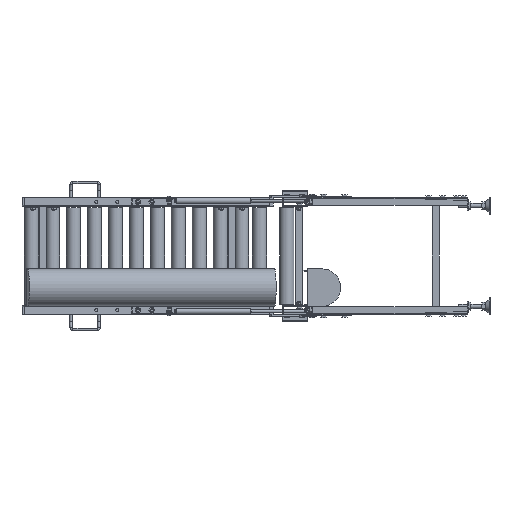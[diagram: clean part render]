
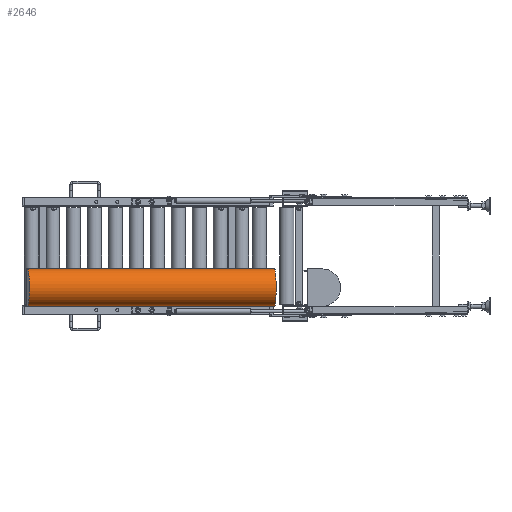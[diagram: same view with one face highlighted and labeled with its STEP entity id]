
A CAD part, left-side view. The second image highlights one B-rep face of the part: STEP entity #2646.
In plain terms, the highlighted cylindrical face has radius 66.89 mm (diameter 133.78 mm), a partial arc.
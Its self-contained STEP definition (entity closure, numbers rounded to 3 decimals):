
#2646=ADVANCED_FACE('',(#20343),#20342,.T.);
#20342=CYLINDRICAL_SURFACE('',#38997,66.89);
#20343=FACE_OUTER_BOUND('',#38998,.T.);
#38994=CARTESIAN_POINT('',(-63.444,-158.438,-112.61));
#38995=DIRECTION('',(0.087,-0.996,0.));
#38996=DIRECTION('',(0.,0.,-1.));
#38997=AXIS2_PLACEMENT_3D('',#38994,#38995,#38996);
#38998=EDGE_LOOP('',(#52974,#52975,#52976,#52977));
#52974=ORIENTED_EDGE('',*,*,#62103,.F.);
#52975=ORIENTED_EDGE('',*,*,#62125,.T.);
#52976=ORIENTED_EDGE('',*,*,#62123,.T.);
#52977=ORIENTED_EDGE('',*,*,#62099,.F.);
#62099=EDGE_CURVE('',#92909,#92916,#92917,.T.);
#62103=EDGE_CURVE('',#92936,#92909,#92943,.T.);
#62123=EDGE_CURVE('',#93081,#92916,#93082,.T.);
#62125=EDGE_CURVE('',#92936,#93081,#93094,.T.);
#92909=VERTEX_POINT('',#125852);
#92916=VERTEX_POINT('',#125856);
#92917=CIRCLE('',#125860,66.89);
#92936=VERTEX_POINT('',#125868);
#92943=LINE('',#125872,#125873);
#93081=VERTEX_POINT('',#125950);
#93082=LINE('',#125951,#125952);
#93094=CIRCLE('',#125960,66.89);
#125852=CARTESIAN_POINT('',(-155.735,897.187,-179.5));
#125856=CARTESIAN_POINT('',(-155.735,897.187,-45.72));
#125857=CARTESIAN_POINT('',(-155.735,897.187,-112.61));
#125858=DIRECTION('',(-0.087,0.996,0.));
#125859=DIRECTION('',(0.,0.,1.));
#125860=AXIS2_PLACEMENT_3D('',#125857,#125858,#125859);
#125868=CARTESIAN_POINT('',(-78.917,18.539,-179.5));
#125872=CARTESIAN_POINT('',(-78.917,18.539,-179.5));
#125873=VECTOR('',#125874,882.);
#125874=DIRECTION('',(-0.087,0.996,0.));
#125950=CARTESIAN_POINT('',(-78.917,18.539,-45.72));
#125951=CARTESIAN_POINT('',(-78.917,18.539,-45.72));
#125952=VECTOR('',#125953,882.);
#125953=DIRECTION('',(-0.087,0.996,0.));
#125957=CARTESIAN_POINT('',(-78.917,18.539,-112.61));
#125958=DIRECTION('',(-0.087,0.996,0.));
#125959=DIRECTION('',(0.,0.,1.));
#125960=AXIS2_PLACEMENT_3D('',#125957,#125958,#125959);
